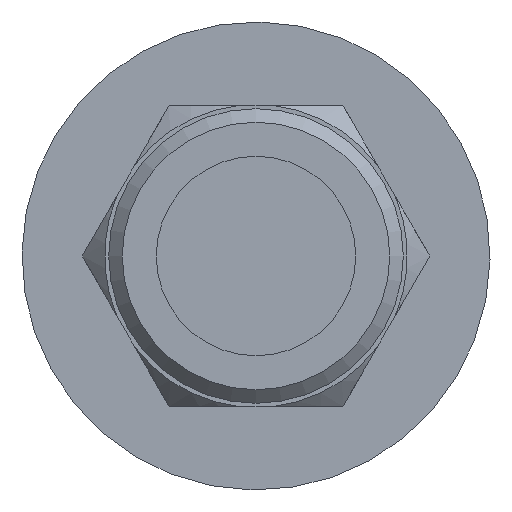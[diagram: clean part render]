
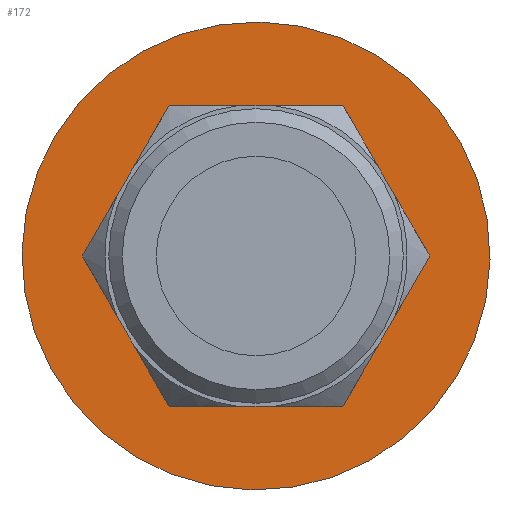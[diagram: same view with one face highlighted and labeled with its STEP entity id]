
A CAD part, front view. The second image highlights one B-rep face of the part: STEP entity #172.
In plain terms, the highlighted planar face has unit normal (0, -1, 0).
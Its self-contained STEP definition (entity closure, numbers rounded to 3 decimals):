
#24 = VERTEX_POINT ( 'NONE', #127 ) ;
#58 = EDGE_CURVE ( 'NONE', #1177, #1177, #1148, .T. ) ;
#127 = CARTESIAN_POINT ( 'NONE',  ( 18.362, 183.5, 10.189 ) ) ;
#149 = CARTESIAN_POINT ( 'NONE',  ( 0., 183.5, 0. ) ) ;
#169 = AXIS2_PLACEMENT_3D ( 'NONE', #1697, #364, #524 ) ;
#172 = ADVANCED_FACE ( 'NONE', ( #1810, #203 ), #1247, .F. ) ;
#191 = CARTESIAN_POINT ( 'NONE',  ( 0., 183.5, 0. ) ) ;
#203 = FACE_OUTER_BOUND ( 'NONE', #1873, .T. ) ;
#205 = ORIENTED_EDGE ( 'NONE', *, *, #1731, .F. ) ;
#364 = DIRECTION ( 'NONE',  ( 0., 1., 0. ) ) ;
#419 = CIRCLE ( 'NONE', #1176, 21. ) ;
#429 = CARTESIAN_POINT ( 'NONE',  ( -8.5, 183.5, 0. ) ) ;
#469 = DIRECTION ( 'NONE',  ( -1., 0., 0. ) ) ;
#524 = DIRECTION ( 'NONE',  ( -0.907, 0., -0.421 ) ) ;
#880 = DIRECTION ( 'NONE',  ( 0., 1., 0. ) ) ;
#1148 = CIRCLE ( 'NONE', #1516, 8.5 ) ;
#1176 = AXIS2_PLACEMENT_3D ( 'NONE', #149, #880, #1868 ) ;
#1177 = VERTEX_POINT ( 'NONE', #429 ) ;
#1247 = PLANE ( 'NONE',  #169 ) ;
#1516 = AXIS2_PLACEMENT_3D ( 'NONE', #191, #1771, #469 ) ;
#1520 = ORIENTED_EDGE ( 'NONE', *, *, #58, .F. ) ;
#1697 = CARTESIAN_POINT ( 'NONE',  ( 14.106, 183.5, 6.544 ) ) ;
#1731 = EDGE_CURVE ( 'NONE', #24, #24, #419, .T. ) ;
#1771 = DIRECTION ( 'NONE',  ( 0., -1., 0. ) ) ;
#1795 = EDGE_LOOP ( 'NONE', ( #1520 ) ) ;
#1810 = FACE_BOUND ( 'NONE', #1795, .T. ) ;
#1868 = DIRECTION ( 'NONE',  ( 0.874, 0., 0.485 ) ) ;
#1873 = EDGE_LOOP ( 'NONE', ( #205 ) ) ;
